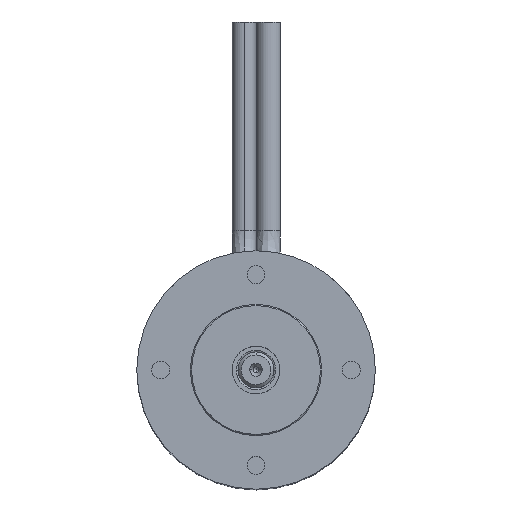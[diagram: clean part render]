
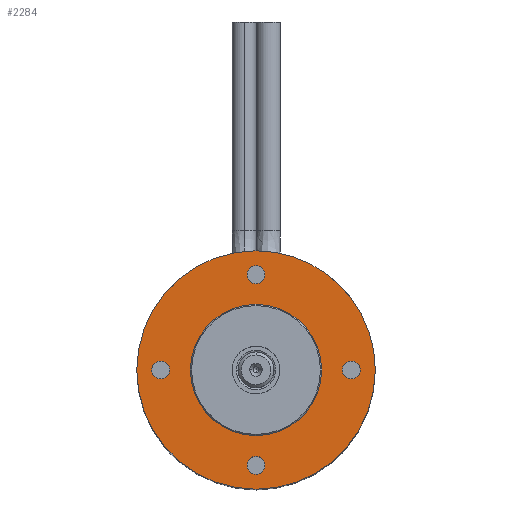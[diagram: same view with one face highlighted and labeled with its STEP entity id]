
A CAD part, top view. The second image highlights one B-rep face of the part: STEP entity #2284.
In plain terms, the highlighted planar face has unit normal (0, 0, 1).
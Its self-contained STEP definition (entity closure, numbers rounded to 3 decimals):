
#7 = CARTESIAN_POINT ( 'NONE',  ( -16., 0., -20. ) ) ;
#11 = ORIENTED_EDGE ( 'NONE', *, *, #7500, .T. ) ;
#24 = DIRECTION ( 'NONE',  ( 1., 0., 0. ) ) ;
#108 = CARTESIAN_POINT ( 'NONE',  ( -11., 0., -20. ) ) ;
#135 = DIRECTION ( 'NONE',  ( 1., 0., 0. ) ) ;
#269 = CARTESIAN_POINT ( 'NONE',  ( 18.964, 6.355, -20. ) ) ;
#286 = ORIENTED_EDGE ( 'NONE', *, *, #5765, .T. ) ;
#312 = DIRECTION ( 'NONE',  ( 0., 0., -1. ) ) ;
#378 = DIRECTION ( 'NONE',  ( 1., 0., 0. ) ) ;
#438 = AXIS2_PLACEMENT_3D ( 'NONE', #1329, #6179, #2034 ) ;
#510 = AXIS2_PLACEMENT_3D ( 'NONE', #6467, #2320, #7170 ) ;
#521 = EDGE_LOOP ( 'NONE', ( #2932, #4993 ) ) ;
#572 = EDGE_CURVE ( 'NONE', #2641, #4163, #8143, .T. ) ;
#604 = CARTESIAN_POINT ( 'NONE',  ( 1.5, -16., -20. ) ) ;
#716 = DIRECTION ( 'NONE',  ( 1., 0., 0. ) ) ;
#762 = VERTEX_POINT ( 'NONE', #4999 ) ;
#822 = VERTEX_POINT ( 'NONE', #977 ) ;
#864 = CIRCLE ( 'NONE', #6183, 1.5 ) ;
#920 = DIRECTION ( 'NONE',  ( 0., 0., -1. ) ) ;
#977 = CARTESIAN_POINT ( 'NONE',  ( 0., 20., -20. ) ) ;
#978 = CARTESIAN_POINT ( 'NONE',  ( 18.964, 6.354, -20. ) ) ;
#1049 = CIRCLE ( 'NONE', #8503, 1.5 ) ;
#1179 = AXIS2_PLACEMENT_3D ( 'NONE', #6955, #2800, #7662 ) ;
#1184 = DIRECTION ( 'NONE',  ( 0., 0., -1. ) ) ;
#1196 = AXIS2_PLACEMENT_3D ( 'NONE', #4476, #312, #5164 ) ;
#1254 = ORIENTED_EDGE ( 'NONE', *, *, #5730, .F. ) ;
#1329 = CARTESIAN_POINT ( 'NONE',  ( 0., -16., -20. ) ) ;
#1523 = EDGE_LOOP ( 'NONE', ( #5490, #6871 ) ) ;
#1539 = CARTESIAN_POINT ( 'NONE',  ( 1.5, 16., -20. ) ) ;
#1548 = CARTESIAN_POINT ( 'NONE',  ( -1.5, -16., -20. ) ) ;
#1564 = CIRCLE ( 'NONE', #438, 1.5 ) ;
#1656 = CIRCLE ( 'NONE', #7487, 1.5 ) ;
#1664 = CARTESIAN_POINT ( 'NONE',  ( 20.028, 3.177, -20. ) ) ;
#1753 = EDGE_CURVE ( 'NONE', #4886, #6182, #7676, .T. ) ;
#1811 = CIRCLE ( 'NONE', #7506, 11. ) ;
#1883 = AXIS2_PLACEMENT_3D ( 'NONE', #5331, #1184, #6018 ) ;
#1927 = ORIENTED_EDGE ( 'NONE', *, *, #1753, .T. ) ;
#1937 = CARTESIAN_POINT ( 'NONE',  ( 17.5, 0., -20. ) ) ;
#2000 = CARTESIAN_POINT ( 'NONE',  ( 0., 0., -20. ) ) ;
#2034 = DIRECTION ( 'NONE',  ( 1., 0., 0. ) ) ;
#2039 = VERTEX_POINT ( 'NONE', #1539 ) ;
#2187 = EDGE_CURVE ( 'NONE', #6182, #4886, #1811, .T. ) ;
#2271 = DIRECTION ( 'NONE',  ( 0., 0., -1. ) ) ;
#2280 = ORIENTED_EDGE ( 'NONE', *, *, #7724, .F. ) ;
#2284 = ADVANCED_FACE ( 'NONE', ( #8316, #8533, #2999, #6465, #4641, #2768 ), #6935, .T. ) ;
#2320 = DIRECTION ( 'NONE',  ( 0., 0., -1. ) ) ;
#2494 = ORIENTED_EDGE ( 'NONE', *, *, #572, .F. ) ;
#2641 = VERTEX_POINT ( 'NONE', #4097 ) ;
#2690 = DIRECTION ( 'NONE',  ( -1., 0., 0. ) ) ;
#2730 = ORIENTED_EDGE ( 'NONE', *, *, #4064, .T. ) ;
#2768 = FACE_OUTER_BOUND ( 'NONE', #7957, .T. ) ;
#2800 = DIRECTION ( 'NONE',  ( 0., 0., -1. ) ) ;
#2875 = CIRCLE ( 'NONE', #1883, 20. ) ;
#2932 = ORIENTED_EDGE ( 'NONE', *, *, #3351, .T. ) ;
#2999 = FACE_BOUND ( 'NONE', #1523, .T. ) ;
#3077 = ORIENTED_EDGE ( 'NONE', *, *, #4888, .F. ) ;
#3120 = VERTEX_POINT ( 'NONE', #604 ) ;
#3163 = CIRCLE ( 'NONE', #4144, 1.5 ) ;
#3351 = EDGE_CURVE ( 'NONE', #3120, #6556, #1049, .T. ) ;
#3415 = DIRECTION ( 'NONE',  ( 0., 0., -1. ) ) ;
#3510 = AXIS2_PLACEMENT_3D ( 'NONE', #3538, #8401, #4248 ) ;
#3538 = CARTESIAN_POINT ( 'NONE',  ( 0., 0., -20. ) ) ;
#3645 = EDGE_LOOP ( 'NONE', ( #286, #2730 ) ) ;
#4064 = EDGE_CURVE ( 'NONE', #8553, #2039, #6026, .T. ) ;
#4071 = CARTESIAN_POINT ( 'NONE',  ( -17.5, 0., -20. ) ) ;
#4073 = AXIS2_PLACEMENT_3D ( 'NONE', #8336, #4177, #24 ) ;
#4097 = CARTESIAN_POINT ( 'NONE',  ( 18.963, 6.355, -20. ) ) ;
#4144 = AXIS2_PLACEMENT_3D ( 'NONE', #7589, #3415, #8284 ) ;
#4154 = VERTEX_POINT ( 'NONE', #5254 ) ;
#4163 = VERTEX_POINT ( 'NONE', #6650 ) ;
#4177 = DIRECTION ( 'NONE',  ( 0., 0., 1. ) ) ;
#4248 = DIRECTION ( 'NONE',  ( 0., -1., 0. ) ) ;
#4288 = DIRECTION ( 'NONE',  ( 0., 0., -1. ) ) ;
#4357 = CIRCLE ( 'NONE', #8815, 20. ) ;
#4476 = CARTESIAN_POINT ( 'NONE',  ( 0., 16., -20. ) ) ;
#4549 = DIRECTION ( 'NONE',  ( 0., 0., -1. ) ) ;
#4641 = FACE_BOUND ( 'NONE', #3645, .T. ) ;
#4714 = EDGE_LOOP ( 'NONE', ( #6326, #11 ) ) ;
#4869 = DIRECTION ( 'NONE',  ( 0., 0., -1. ) ) ;
#4886 = VERTEX_POINT ( 'NONE', #5305 ) ;
#4888 = EDGE_CURVE ( 'NONE', #762, #822, #2875, .T. ) ;
#4993 = ORIENTED_EDGE ( 'NONE', *, *, #5627, .T. ) ;
#4999 = CARTESIAN_POINT ( 'NONE',  ( 0., -20., -20. ) ) ;
#5072 = CARTESIAN_POINT ( 'NONE',  ( 0., 0., -20. ) ) ;
#5164 = DIRECTION ( 'NONE',  ( 1., 0., 0. ) ) ;
#5254 = CARTESIAN_POINT ( 'NONE',  ( 14.5, 0., -20. ) ) ;
#5305 = CARTESIAN_POINT ( 'NONE',  ( 11., 0., -20. ) ) ;
#5331 = CARTESIAN_POINT ( 'NONE',  ( 0., 0., -20. ) ) ;
#5356 = AXIS2_PLACEMENT_3D ( 'NONE', #8690, #4549, #378 ) ;
#5490 = ORIENTED_EDGE ( 'NONE', *, *, #5641, .T. ) ;
#5627 = EDGE_CURVE ( 'NONE', #6556, #3120, #1564, .T. ) ;
#5641 = EDGE_CURVE ( 'NONE', #6795, #4154, #3163, .T. ) ;
#5730 = EDGE_CURVE ( 'NONE', #822, #2641, #4357, .T. ) ;
#5749 = DIRECTION ( 'NONE',  ( 0., -1., 0. ) ) ;
#5765 = EDGE_CURVE ( 'NONE', #2039, #8553, #8254, .T. ) ;
#5801 = CARTESIAN_POINT ( 'NONE',  ( 18.963, 6.355, -20. ) ) ;
#6018 = DIRECTION ( 'NONE',  ( 0., -1., 0. ) ) ;
#6026 = CIRCLE ( 'NONE', #5356, 1.5 ) ;
#6179 = DIRECTION ( 'NONE',  ( 0., 0., -1. ) ) ;
#6182 = VERTEX_POINT ( 'NONE', #108 ) ;
#6183 = AXIS2_PLACEMENT_3D ( 'NONE', #7, #4869, #716 ) ;
#6220 = CARTESIAN_POINT ( 'NONE',  ( -1.5, 16., -20. ) ) ;
#6326 = ORIENTED_EDGE ( 'NONE', *, *, #8732, .T. ) ;
#6418 = CARTESIAN_POINT ( 'NONE',  ( 0., -16., -20. ) ) ;
#6465 = FACE_BOUND ( 'NONE', #7096, .T. ) ;
#6467 = CARTESIAN_POINT ( 'NONE',  ( -16., 0., -20. ) ) ;
#6503 = CARTESIAN_POINT ( 'NONE',  ( 19.999, -0.175, -20. ) ) ;
#6556 = VERTEX_POINT ( 'NONE', #1548 ) ;
#6650 = CARTESIAN_POINT ( 'NONE',  ( 19.999, -0.175, -20. ) ) ;
#6795 = VERTEX_POINT ( 'NONE', #1937 ) ;
#6846 = DIRECTION ( 'NONE',  ( 0., 0., -1. ) ) ;
#6871 = ORIENTED_EDGE ( 'NONE', *, *, #8894, .T. ) ;
#6935 = PLANE ( 'NONE',  #4073 ) ;
#6955 = CARTESIAN_POINT ( 'NONE',  ( 0., 0., -20. ) ) ;
#7045 = VERTEX_POINT ( 'NONE', #7725 ) ;
#7096 = EDGE_LOOP ( 'NONE', ( #7502, #1927 ) ) ;
#7114 = DIRECTION ( 'NONE',  ( 1., 0., 0. ) ) ;
#7170 = DIRECTION ( 'NONE',  ( 1., 0., 0. ) ) ;
#7462 = VERTEX_POINT ( 'NONE', #4071 ) ;
#7487 = AXIS2_PLACEMENT_3D ( 'NONE', #8441, #4288, #135 ) ;
#7500 = EDGE_CURVE ( 'NONE', #7462, #7045, #864, .T. ) ;
#7502 = ORIENTED_EDGE ( 'NONE', *, *, #2187, .T. ) ;
#7506 = AXIS2_PLACEMENT_3D ( 'NONE', #2000, #6846, #2690 ) ;
#7589 = CARTESIAN_POINT ( 'NONE',  ( 16., 0., -20. ) ) ;
#7621 = CIRCLE ( 'NONE', #510, 1.5 ) ;
#7662 = DIRECTION ( 'NONE',  ( -1., 0., 0. ) ) ;
#7676 = CIRCLE ( 'NONE', #1179, 11. ) ;
#7724 = EDGE_CURVE ( 'NONE', #4163, #762, #8835, .T. ) ;
#7725 = CARTESIAN_POINT ( 'NONE',  ( -14.5, 0., -20. ) ) ;
#7957 = EDGE_LOOP ( 'NONE', ( #2494, #1254, #3077, #2280 ) ) ;
#8143 =( BOUNDED_CURVE ( )  B_SPLINE_CURVE ( 2, ( #5801, #269, #978, #1664, #6503 ),
 .UNSPECIFIED., .F., .T. ) 
 B_SPLINE_CURVE_WITH_KNOTS ( ( 3, 2, 3 ),
 ( 0., 0., 0.007 ),
 .UNSPECIFIED. ) 
 CURVE ( )  GEOMETRIC_REPRESENTATION_ITEM ( )  RATIONAL_B_SPLINE_CURVE ( ( 0.855, 0.855, 0.855, 0.912, 1. ) ) 
 REPRESENTATION_ITEM ( '' )  );
#8254 = CIRCLE ( 'NONE', #1196, 1.5 ) ;
#8284 = DIRECTION ( 'NONE',  ( 1., 0., 0. ) ) ;
#8316 = FACE_BOUND ( 'NONE', #521, .T. ) ;
#8336 = CARTESIAN_POINT ( 'NONE',  ( -26., -41.569, -20. ) ) ;
#8401 = DIRECTION ( 'NONE',  ( 0., 0., -1. ) ) ;
#8441 = CARTESIAN_POINT ( 'NONE',  ( 16., 0., -20. ) ) ;
#8503 = AXIS2_PLACEMENT_3D ( 'NONE', #6418, #2271, #7114 ) ;
#8533 = FACE_BOUND ( 'NONE', #4714, .T. ) ;
#8553 = VERTEX_POINT ( 'NONE', #6220 ) ;
#8690 = CARTESIAN_POINT ( 'NONE',  ( 0., 16., -20. ) ) ;
#8732 = EDGE_CURVE ( 'NONE', #7045, #7462, #7621, .T. ) ;
#8815 = AXIS2_PLACEMENT_3D ( 'NONE', #5072, #920, #5749 ) ;
#8835 = CIRCLE ( 'NONE', #3510, 20. ) ;
#8894 = EDGE_CURVE ( 'NONE', #4154, #6795, #1656, .T. ) ;
